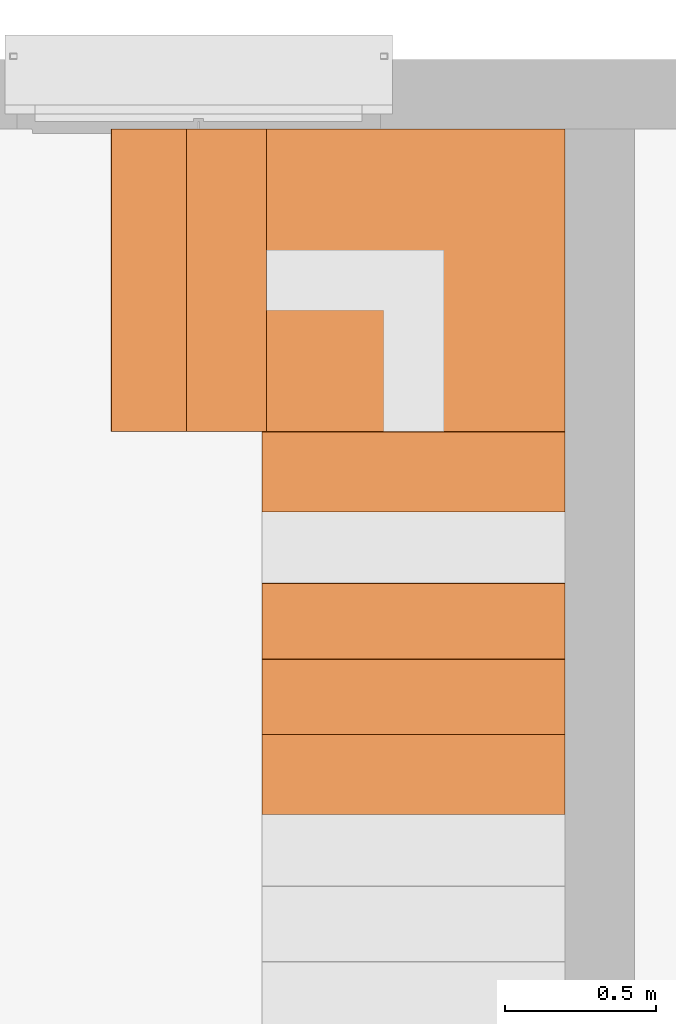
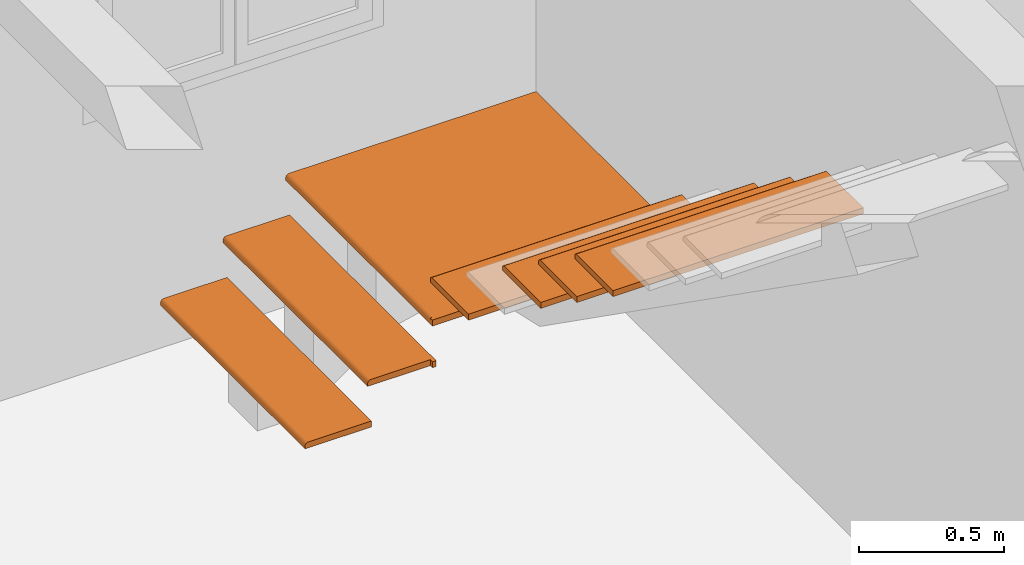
# One storey, part 17 of 17: 7 proxies, 1 element without a shape of its own.
"""IFC2X3 building model written with IfcOpenShell, lengths in metres."""

from ifc_helpers import new_model, entity, si_unit, converted_unit, derived_unit, money_unit, direction, frame, origin_with_axes, place, context, subcontext, project, spatial, faceted_brep, material, type_object, element, aggregate, save


model = new_model("IFC2X3")

# Units and contexts
model_context = context("Model", 3, precision=1e-05, world=origin_with_axes(), true_north=direction((0.0, 1.0)))
body_context = subcontext(model_context, "Body", "Model", "MODEL_VIEW")
ifc_project = project(units=[si_unit("LENGTHUNIT", "METRE"), si_unit("AREAUNIT", "SQUARE_METRE"), si_unit("VOLUMEUNIT", "CUBIC_METRE"), converted_unit("PLANEANGLEUNIT", "DEGREE", entity("IfcPlaneAngleMeasure", 0.0174532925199), si_unit("PLANEANGLEUNIT", "RADIAN"), dimensions=[0, 0, 0, 0, 0, 0, 0]), si_unit("SOLIDANGLEUNIT", "STERADIAN"), money_unit("CHF"), converted_unit("TIMEUNIT", "Year", entity("IfcTimeMeasure", 31556926.0), si_unit("TIMEUNIT", "SECOND"), dimensions=[0, 0, 1, 0, 0, 0, 0]), si_unit("MASSUNIT", "GRAM", prefix="KILO"), si_unit("THERMODYNAMICTEMPERATUREUNIT", "DEGREE_CELSIUS"), si_unit("LUMINOUSINTENSITYUNIT", "LUMEN"), si_unit("ENERGYUNIT", "JOULE", prefix="MEGA"), derived_unit("THERMALCONDUCTANCEUNIT", [(si_unit("POWERUNIT", "WATT"), 1), (si_unit("LENGTHUNIT", "METRE"), -1), (si_unit("THERMODYNAMICTEMPERATUREUNIT", "KELVIN"), -1)]), derived_unit("SPECIFICHEATCAPACITYUNIT", [(si_unit("ENERGYUNIT", "JOULE"), 1), (si_unit("MASSUNIT", "GRAM", prefix="KILO"), -1), (si_unit("THERMODYNAMICTEMPERATUREUNIT", "KELVIN"), -1)]), derived_unit("MASSDENSITYUNIT", [(si_unit("MASSUNIT", "GRAM", prefix="KILO"), 1), (si_unit("VOLUMEUNIT", "CUBIC_METRE"), -1)])], contexts=[model_context])

# Site, building, storey
site_placement = place(None, origin_with_axes())
site = spatial("IfcSite", under=ifc_project, at=site_placement, Name="Site", CompositionType="ELEMENT")
building_placement = place(site_placement, origin_with_axes())
building = spatial("IfcBuilding", under=site, at=building_placement, Name="Bâtiment", CompositionType="ELEMENT")
storey_placement = place(building_placement, frame((0.0, 0.0, 3.0), z_axis=(0.0, 0.0, 1.0), x_axis=(1.0, 0.0, 0.0)))
storey = spatial("IfcBuildingStorey", under=building, at=storey_placement, Name="RDJ", CompositionType="ELEMENT", Elevation=3.0)

# Discrete accessory, proxies
discrete_accessory_type = type_object("IfcDiscreteAccessoryType", Name="Type d'escalier")
discrete_accessory_placement = place(storey_placement, frame((90.2435190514, 18.0803410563, -2.79432731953), z_axis=(0.0, 0.0, 1.0), x_axis=(1.0, 0.0, 0.0)))
discrete_accessory = element("IfcDiscreteAccessory", 1, at=discrete_accessory_placement, inside=storey, type_object=discrete_accessory_type, Name="ESCALIER-001")
ifc_material = material(Name="Finition sol - Parquet")
building_element_proxy_type = type_object("IfcBuildingElementProxyType", Name="IfcBuildingElementProxy", PredefinedType="NOTDEFINED")
proxy_1_placement = place(discrete_accessory_placement, frame((0.0, 0.0, 0.0), z_axis=(0.0, 0.0, 1.0), x_axis=(0.0, -1.0, 0.0)))
proxy_1 = element("IfcBuildingElementProxy", 2, at=proxy_1_placement, type_object=building_element_proxy_type, material=ifc_material, Name="MARCHE-001", context=body_context, shape_type="Brep", body=[
    faceted_brep([(-0.5, 0.265, 0.0), (0.5, 0.265, 0.0), (0.5, 0.265, -0.025), (-0.5, 0.265, -0.025), (-0.5, 0.0125, 0.0), (0.5, 0.0125, 0.0), (0.5, 0.000189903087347, -0.0103293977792), (0.5, 0.0, -0.0125), (0.5, 0.0, -0.025), (0.5, 0.0103293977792, -0.000189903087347), (0.5, 0.00822474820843, -0.000753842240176), (0.5, 0.00625, -0.00167468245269), (0.5, 0.00446515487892, -0.00292444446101), (0.5, 0.00292444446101, -0.00446515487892), (0.5, 0.00167468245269, -0.00625), (0.5, 0.000753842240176, -0.00822474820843), (-0.5, 0.0, -0.025), (-0.5, 0.0, -0.0125), (-0.5, 0.000189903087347, -0.0103293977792), (-0.5, 0.000753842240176, -0.00822474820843), (-0.5, 0.00167468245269, -0.00625), (-0.5, 0.00292444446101, -0.00446515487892), (-0.5, 0.00446515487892, -0.00292444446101), (-0.5, 0.00625, -0.00167468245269), (-0.5, 0.00822474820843, -0.000753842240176), (-0.5, 0.0103293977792, -0.000189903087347)], [[[0, 1, 2, 3]], [[1, 0, 4, 5]], [[6, 7, 8, 2, 1, 5, 9, 10, 11, 12, 13, 14, 15]], [[8, 16, 3, 2]], [[4, 0, 3, 16, 17, 18, 19, 20, 21, 22, 23, 24, 25]], [[9, 5, 4, 25]], [[7, 6, 18, 17]], [[7, 17, 16, 8]], [[10, 9, 25, 24]], [[11, 10, 24, 23]], [[12, 11, 23, 22]], [[13, 12, 22, 21]], [[14, 13, 21, 20]], [[15, 14, 20, 19]], [[6, 15, 19, 18]]]),
])
proxy_2_placement = place(discrete_accessory_placement, frame((0.25, 0.0, 0.176428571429), z_axis=(0.0, 0.0, 1.0), x_axis=(0.0, -1.0, 0.0)))
proxy_2 = element("IfcBuildingElementProxy", 3, at=proxy_2_placement, type_object=building_element_proxy_type, material=ifc_material, Name="MARCHE-002", context=body_context, shape_type="Brep", body=[
    faceted_brep([(-0.5, 0.2650000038, 0.0), (0.515, 0.2650000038, 0.0), (0.515, 0.2650000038, -0.025), (-0.5, 0.2650000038, -0.025), (-0.5, 0.0125, 0.0), (0.5, 0.0125, 0.0), (0.5, 0.25, 0.0), (0.515, 0.25, 0.0), (0.515, 0.25, -0.025), (0.5, 0.0, -0.025), (-0.5, 0.0, -0.025), (0.5, 0.25, -0.025), (-0.5, 0.0, -0.0125), (-0.5, 0.000189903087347, -0.0103293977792), (-0.5, 0.000753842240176, -0.00822474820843), (-0.5, 0.00167468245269, -0.00625), (-0.5, 0.00292444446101, -0.00446515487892), (-0.5, 0.00446515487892, -0.00292444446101), (-0.5, 0.00625, -0.00167468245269), (-0.5, 0.00822474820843, -0.000753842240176), (-0.5, 0.0103293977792, -0.000189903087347), (0.5, 0.0103293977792, -0.000189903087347), (0.5, 0.000189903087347, -0.0103293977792), (0.5, 0.0, -0.0125), (0.5, 0.00822474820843, -0.000753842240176), (0.5, 0.00625, -0.00167468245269), (0.5, 0.00446515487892, -0.00292444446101), (0.5, 0.00292444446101, -0.00446515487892), (0.5, 0.00167468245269, -0.00625), (0.5, 0.000753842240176, -0.00822474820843)], [[[0, 1, 2, 3]], [[1, 0, 4, 5, 6, 7]], [[1, 7, 8, 2]], [[9, 10, 3, 2, 8, 11]], [[4, 0, 3, 10, 12, 13, 14, 15, 16, 17, 18, 19, 20]], [[21, 5, 4, 20]], [[22, 23, 9, 11, 6, 5, 21, 24, 25, 26, 27, 28, 29]], [[7, 6, 11, 8]], [[23, 12, 10, 9]], [[23, 22, 13, 12]], [[22, 29, 14, 13]], [[29, 28, 15, 14]], [[28, 27, 16, 15]], [[27, 26, 17, 16]], [[26, 25, 18, 17]], [[25, 24, 19, 18]], [[24, 21, 20, 19]]]),
])
proxy_3_placement = place(discrete_accessory_placement, frame((0.5, 0.0, 0.352857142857), z_axis=(0.0, 0.0, 1.0), x_axis=(0.0, -1.0, 0.0)))
proxy_3 = element("IfcBuildingElementProxy", 4, at=proxy_3_placement, type_object=building_element_proxy_type, material=ifc_material, Name="MARCHE-003", context=body_context, shape_type="Brep", body=[
    faceted_brep([(-0.5, 0.999999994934, 0.0), (0.515, 0.999999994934, 0.0), (0.515, 0.999999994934, -0.025), (-0.5, 0.999999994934, -0.025), (-0.5, 0.0125, 0.0), (0.499999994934, 0.0125, 0.0), (0.499999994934, 0.0, 0.0), (0.515, 0.0, 0.0), (0.515, 0.0, -0.025), (-0.5, 0.0, -0.025), (0.499999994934, 0.0, -0.025), (-0.5, 0.0, -0.0125), (-0.5, 0.000189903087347, -0.0103293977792), (-0.5, 0.000753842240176, -0.00822474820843), (-0.5, 0.00167468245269, -0.00625), (-0.5, 0.00292444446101, -0.00446515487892), (-0.5, 0.00446515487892, -0.00292444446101), (-0.5, 0.00625, -0.00167468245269), (-0.5, 0.00822474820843, -0.000753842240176), (-0.5, 0.0103293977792, -0.000189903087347), (0.499999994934, 0.0103293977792, -0.000189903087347), (0.499999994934, 0.0, -0.0125), (0.499999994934, 0.00822474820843, -0.000753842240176), (0.499999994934, 0.00625, -0.00167468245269), (0.499999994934, 0.00446515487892, -0.00292444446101), (0.499999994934, 0.00292444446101, -0.00446515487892), (0.499999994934, 0.00167468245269, -0.00625), (0.499999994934, 0.000753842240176, -0.00822474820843), (0.499999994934, 0.000189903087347, -0.0103293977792)], [[[0, 1, 2, 3]], [[1, 0, 4, 5, 6, 7]], [[1, 7, 8, 2]], [[9, 3, 2, 8, 10]], [[4, 0, 3, 9, 11, 12, 13, 14, 15, 16, 17, 18, 19]], [[4, 19, 20, 5]], [[21, 6, 5, 20, 22, 23, 24, 25, 26, 27, 28]], [[6, 21, 10, 8, 7]], [[21, 11, 9, 10]], [[11, 21, 28, 12]], [[13, 12, 28, 27]], [[14, 13, 27, 26]], [[15, 14, 26, 25]], [[16, 15, 25, 24]], [[17, 16, 24, 23]], [[18, 17, 23, 22]], [[19, 18, 22, 20]]]),
])
proxy_4_placement = place(discrete_accessory_placement, frame((1.0, -0.5, 0.529285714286), z_axis=(0.0, 0.0, 1.0), x_axis=(-1.0, 0.0, 0.0)))
proxy_4 = element("IfcBuildingElementProxy", 5, at=proxy_4_placement, type_object=building_element_proxy_type, material=ifc_material, Name="MARCHE-004", context=body_context, shape_type="Brep", body=[
    faceted_brep([(-0.5, 0.265, 0.0), (0.5, 0.265, 0.0), (0.5, 0.265, -0.025), (-0.5, 0.265, -0.025), (-0.5, 0.0125, 0.0), (0.5, 0.0125, 0.0), (0.5, 0.000189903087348, -0.0103293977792), (0.5, 0.0, -0.0125), (0.5, 0.0, -0.025), (0.5, 0.0103293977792, -0.000189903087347), (0.5, 0.00822474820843, -0.000753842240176), (0.5, 0.00625, -0.00167468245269), (0.5, 0.00446515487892, -0.00292444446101), (0.5, 0.00292444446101, -0.00446515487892), (0.5, 0.00167468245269, -0.00625), (0.5, 0.000753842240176, -0.00822474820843), (-0.5, 0.0, -0.025), (-0.5, 0.0, -0.0125), (-0.5, 0.000189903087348, -0.0103293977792), (-0.5, 0.000753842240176, -0.00822474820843), (-0.5, 0.00167468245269, -0.00625), (-0.5, 0.00292444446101, -0.00446515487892), (-0.5, 0.00446515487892, -0.00292444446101), (-0.5, 0.00625, -0.00167468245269), (-0.5, 0.00822474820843, -0.000753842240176), (-0.5, 0.0103293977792, -0.000189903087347)], [[[0, 1, 2, 3]], [[1, 0, 4, 5]], [[6, 7, 8, 2, 1, 5, 9, 10, 11, 12, 13, 14, 15]], [[3, 2, 8, 16]], [[4, 0, 3, 16, 17, 18, 19, 20, 21, 22, 23, 24, 25]], [[9, 5, 4, 25]], [[7, 6, 18, 17]], [[7, 17, 16, 8]], [[10, 9, 25, 24]], [[11, 10, 24, 23]], [[12, 11, 23, 22]], [[13, 12, 22, 21]], [[14, 13, 21, 20]], [[15, 14, 20, 19]], [[6, 15, 19, 18]]]),
])
proxy_5_placement = place(discrete_accessory_placement, frame((1.0, -1.0, 0.882142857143), z_axis=(0.0, 0.0, 1.0), x_axis=(-1.0, 0.0, 0.0)))
proxy_5 = element("IfcBuildingElementProxy", 6, at=proxy_5_placement, type_object=building_element_proxy_type, material=ifc_material, Name="MARCHE-006", context=body_context, shape_type="Brep", body=[
    faceted_brep([(-0.5, 0.265, 0.0), (0.5, 0.265, 0.0), (0.5, 0.265, -0.025), (-0.5, 0.265, -0.025), (-0.5, 0.0125, 0.0), (0.5, 0.0125, 0.0), (0.5, 0.000189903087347, -0.0103293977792), (0.5, 0.0, -0.0125), (0.5, 0.0, -0.025), (0.5, 0.0103293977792, -0.000189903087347), (0.5, 0.00822474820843, -0.000753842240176), (0.5, 0.00625, -0.00167468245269), (0.5, 0.00446515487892, -0.00292444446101), (0.5, 0.00292444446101, -0.00446515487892), (0.5, 0.00167468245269, -0.00625), (0.5, 0.000753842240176, -0.00822474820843), (-0.5, 0.0, -0.025), (-0.5, 0.0, -0.0125), (-0.5, 0.000189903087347, -0.0103293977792), (-0.5, 0.000753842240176, -0.00822474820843), (-0.5, 0.00167468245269, -0.00625), (-0.5, 0.00292444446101, -0.00446515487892), (-0.5, 0.00446515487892, -0.00292444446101), (-0.5, 0.00625, -0.00167468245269), (-0.5, 0.00822474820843, -0.000753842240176), (-0.5, 0.0103293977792, -0.000189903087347)], [[[0, 1, 2, 3]], [[1, 0, 4, 5]], [[6, 7, 8, 2, 1, 5, 9, 10, 11, 12, 13, 14, 15]], [[8, 16, 3, 2]], [[4, 0, 3, 16, 17, 18, 19, 20, 21, 22, 23, 24, 25]], [[9, 5, 4, 25]], [[7, 6, 18, 17]], [[7, 17, 16, 8]], [[10, 9, 25, 24]], [[11, 10, 24, 23]], [[12, 11, 23, 22]], [[13, 12, 22, 21]], [[14, 13, 21, 20]], [[15, 14, 20, 19]], [[6, 15, 19, 18]]]),
])
proxy_6_placement = place(discrete_accessory_placement, frame((1.0, -1.25, 1.05857142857), z_axis=(0.0, 0.0, 1.0), x_axis=(-1.0, 0.0, 0.0)))
proxy_6 = element("IfcBuildingElementProxy", 7, at=proxy_6_placement, type_object=building_element_proxy_type, material=ifc_material, Name="MARCHE-007", context=body_context, shape_type="Brep", body=[
    faceted_brep([(-0.5, 0.265, 0.0), (0.5, 0.265, 0.0), (0.5, 0.265, -0.025), (-0.5, 0.265, -0.025), (-0.5, 0.0125, 0.0), (0.5, 0.0125, 0.0), (0.5, 0.000189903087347, -0.0103293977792), (0.5, 0.0, -0.0125), (0.5, 0.0, -0.025), (0.5, 0.0103293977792, -0.000189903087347), (0.5, 0.00822474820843, -0.000753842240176), (0.5, 0.00625, -0.00167468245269), (0.5, 0.00446515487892, -0.00292444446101), (0.5, 0.00292444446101, -0.00446515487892), (0.5, 0.00167468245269, -0.00625), (0.5, 0.000753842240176, -0.00822474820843), (-0.5, 0.0, -0.025), (-0.5, 0.0, -0.0125), (-0.5, 0.000189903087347, -0.0103293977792), (-0.5, 0.000753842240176, -0.00822474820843), (-0.5, 0.00167468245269, -0.00625), (-0.5, 0.00292444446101, -0.00446515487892), (-0.5, 0.00446515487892, -0.00292444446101), (-0.5, 0.00625, -0.00167468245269), (-0.5, 0.00822474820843, -0.000753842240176), (-0.5, 0.0103293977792, -0.000189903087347)], [[[0, 1, 2, 3]], [[1, 0, 4, 5]], [[6, 7, 8, 2, 1, 5, 9, 10, 11, 12, 13, 14, 15]], [[8, 16, 3, 2]], [[4, 0, 3, 16, 17, 18, 19, 20, 21, 22, 23, 24, 25]], [[9, 5, 4, 25]], [[7, 6, 18, 17]], [[7, 17, 16, 8]], [[10, 9, 25, 24]], [[11, 10, 24, 23]], [[12, 11, 23, 22]], [[13, 12, 22, 21]], [[14, 13, 21, 20]], [[15, 14, 20, 19]], [[6, 15, 19, 18]]]),
])
proxy_7_placement = place(discrete_accessory_placement, frame((1.0, -1.5, 1.235), z_axis=(0.0, 0.0, 1.0), x_axis=(-1.0, 0.0, 0.0)))
proxy_7 = element("IfcBuildingElementProxy", 8, at=proxy_7_placement, type_object=building_element_proxy_type, material=ifc_material, Name="MARCHE-008", context=body_context, shape_type="Brep", body=[
    faceted_brep([(-0.5, 0.265, 0.0), (0.5, 0.265, 0.0), (0.5, 0.265, -0.025), (-0.5, 0.265, -0.025), (-0.5, 0.0125, 0.0), (0.5, 0.0125, 0.0), (0.5, 0.000189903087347, -0.0103293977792), (0.5, 0.0, -0.0125), (0.5, 0.0, -0.025), (0.5, 0.0103293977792, -0.000189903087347), (0.5, 0.00822474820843, -0.000753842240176), (0.5, 0.00625, -0.00167468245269), (0.5, 0.00446515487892, -0.00292444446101), (0.5, 0.00292444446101, -0.00446515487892), (0.5, 0.00167468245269, -0.00625), (0.5, 0.000753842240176, -0.00822474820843), (-0.5, 0.0, -0.025), (-0.5, 0.0, -0.0125), (-0.5, 0.000189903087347, -0.0103293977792), (-0.5, 0.000753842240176, -0.00822474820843), (-0.5, 0.00167468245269, -0.00625), (-0.5, 0.00292444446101, -0.00446515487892), (-0.5, 0.00446515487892, -0.00292444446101), (-0.5, 0.00625, -0.00167468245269), (-0.5, 0.00822474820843, -0.000753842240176), (-0.5, 0.0103293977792, -0.000189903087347)], [[[0, 1, 2, 3]], [[1, 0, 4, 5]], [[6, 7, 8, 2, 1, 5, 9, 10, 11, 12, 13, 14, 15]], [[8, 16, 3, 2]], [[4, 0, 3, 16, 17, 18, 19, 20, 21, 22, 23, 24, 25]], [[9, 5, 4, 25]], [[7, 6, 18, 17]], [[7, 17, 16, 8]], [[10, 9, 25, 24]], [[11, 10, 24, 23]], [[12, 11, 23, 22]], [[13, 12, 22, 21]], [[14, 13, 21, 20]], [[15, 14, 20, 19]], [[6, 15, 19, 18]]]),
])
aggregate(discrete_accessory, [proxy_1, proxy_2, proxy_3, proxy_4, proxy_5, proxy_6, proxy_7])

save(model, "model.ifc")
